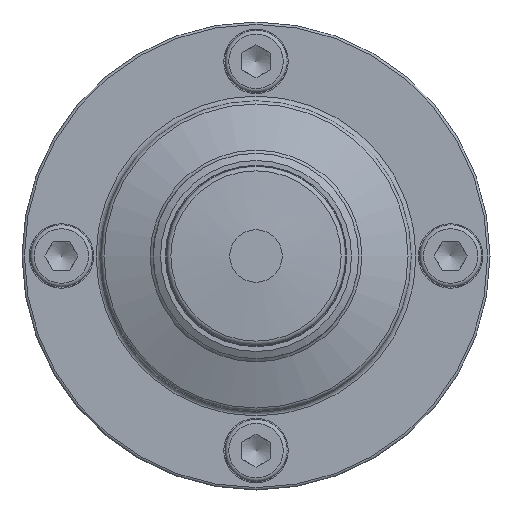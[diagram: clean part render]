
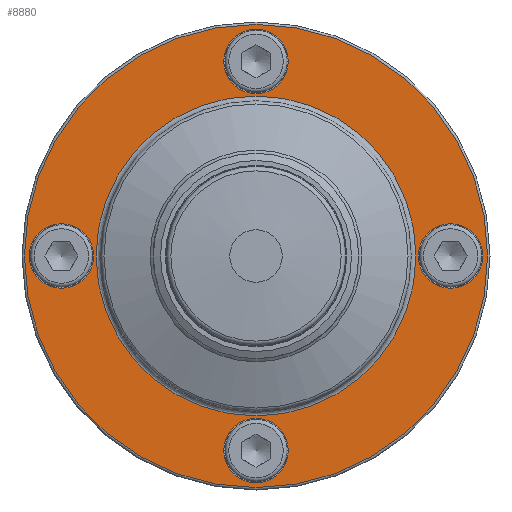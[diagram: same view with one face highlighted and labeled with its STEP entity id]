
A CAD part, front view. The second image highlights one B-rep face of the part: STEP entity #8880.
In plain terms, the highlighted planar face has unit normal (0, -1, 0).
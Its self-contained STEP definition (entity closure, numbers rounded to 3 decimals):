
#8805=CARTESIAN_POINT('',(48.5,5.08,0.));
#8806=VERTEX_POINT('',#8805);
#8807=CARTESIAN_POINT('',(0.,5.08,0.0));
#8808=DIRECTION('',(0.0,1.0,0.0));
#8809=DIRECTION('',(-1.0,0.0,0.0));
#8810=AXIS2_PLACEMENT_3D('',#8807,#8808,#8809);
#8811=CIRCLE('',#8810,48.5);
#8812=EDGE_CURVE('',#8806,#8806,#8811,.T.);
#8817=CARTESIAN_POINT('',(41.25,5.08,0.0));
#8818=DIRECTION('',(0.0,-1.0,0.0));
#8819=DIRECTION('',(0.0,0.0,-1.0));
#8820=AXIS2_PLACEMENT_3D('',#8817,#8818,#8819);
#8821=PLANE('',#8820);
#8822=ORIENTED_EDGE('',*,*,#8812,.F.);
#8823=EDGE_LOOP('',(#8822));
#8824=FACE_OUTER_BOUND('',#8823,.T.);
#8825=CARTESIAN_POINT('',(33.5,5.08,0.0));
#8826=VERTEX_POINT('',#8825);
#8827=CARTESIAN_POINT('',(0.,5.08,0.0));
#8828=DIRECTION('',(0.0,-1.0,0.0));
#8829=DIRECTION('',(1.0,0.0,0.0));
#8830=AXIS2_PLACEMENT_3D('',#8827,#8828,#8829);
#8831=CIRCLE('',#8830,33.5);
#8832=EDGE_CURVE('',#8826,#8826,#8831,.T.);
#8833=ORIENTED_EDGE('',*,*,#8832,.F.);
#8834=EDGE_LOOP('',(#8833));
#8835=FACE_BOUND('',#8834,.T.);
#8836=CARTESIAN_POINT('',(0.,5.08,34.0));
#8837=VERTEX_POINT('',#8836);
#8838=CARTESIAN_POINT('',(0.,5.08,40.75));
#8839=DIRECTION('',(0.0,1.0,0.0));
#8840=DIRECTION('',(0.0,0.0,-1.0));
#8841=AXIS2_PLACEMENT_3D('',#8838,#8839,#8840);
#8842=CIRCLE('',#8841,6.75);
#8843=EDGE_CURVE('',#8837,#8837,#8842,.T.);
#8844=ORIENTED_EDGE('',*,*,#8843,.T.);
#8845=EDGE_LOOP('',(#8844));
#8846=FACE_BOUND('',#8845,.T.);
#8847=CARTESIAN_POINT('',(-34.0,5.08,0.));
#8848=VERTEX_POINT('',#8847);
#8849=CARTESIAN_POINT('',(-40.75,5.08,0.));
#8850=DIRECTION('',(0.0,1.0,0.0));
#8851=DIRECTION('',(1.0,0.0,0.0));
#8852=AXIS2_PLACEMENT_3D('',#8849,#8850,#8851);
#8853=CIRCLE('',#8852,6.75);
#8854=EDGE_CURVE('',#8848,#8848,#8853,.T.);
#8855=ORIENTED_EDGE('',*,*,#8854,.T.);
#8856=EDGE_LOOP('',(#8855));
#8857=FACE_BOUND('',#8856,.T.);
#8858=CARTESIAN_POINT('',(0.,5.08,-34.0));
#8859=VERTEX_POINT('',#8858);
#8860=CARTESIAN_POINT('',(0.,5.08,-40.75));
#8861=DIRECTION('',(0.0,1.0,0.0));
#8862=DIRECTION('',(0.0,0.0,1.0));
#8863=AXIS2_PLACEMENT_3D('',#8860,#8861,#8862);
#8864=CIRCLE('',#8863,6.75);
#8865=EDGE_CURVE('',#8859,#8859,#8864,.T.);
#8866=ORIENTED_EDGE('',*,*,#8865,.T.);
#8867=EDGE_LOOP('',(#8866));
#8868=FACE_BOUND('',#8867,.T.);
#8869=CARTESIAN_POINT('',(34.0,5.08,0.));
#8870=VERTEX_POINT('',#8869);
#8871=CARTESIAN_POINT('',(40.75,5.08,0.));
#8872=DIRECTION('',(0.0,1.0,0.0));
#8873=DIRECTION('',(-1.0,0.0,0.0));
#8874=AXIS2_PLACEMENT_3D('',#8871,#8872,#8873);
#8875=CIRCLE('',#8874,6.75);
#8876=EDGE_CURVE('',#8870,#8870,#8875,.T.);
#8877=ORIENTED_EDGE('',*,*,#8876,.T.);
#8878=EDGE_LOOP('',(#8877));
#8879=FACE_BOUND('',#8878,.T.);
#8880=ADVANCED_FACE('',(#8824,#8835,#8846,#8857,#8868,#8879),#8821,.T.);
